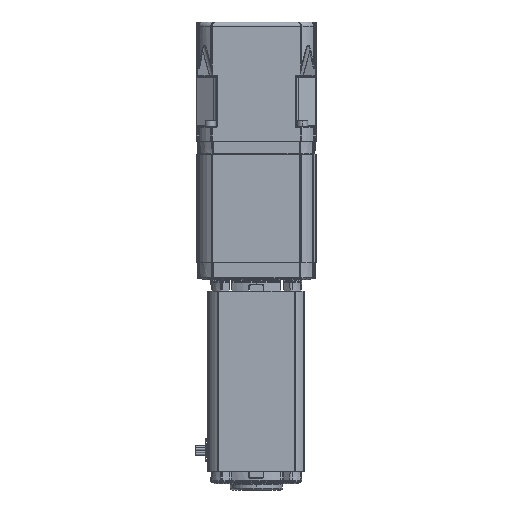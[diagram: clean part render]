
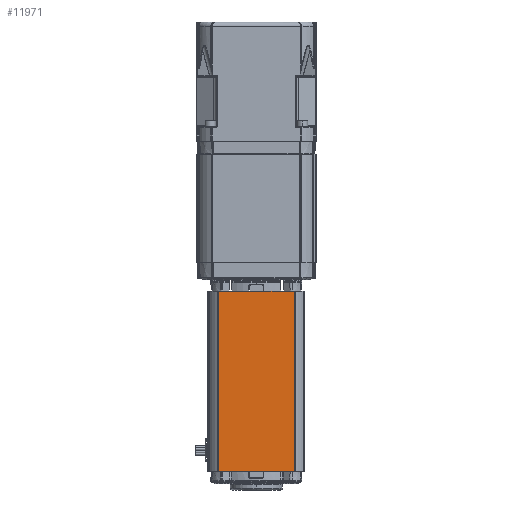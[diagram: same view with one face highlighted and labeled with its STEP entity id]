
A CAD part, left-side view. The second image highlights one B-rep face of the part: STEP entity #11971.
In plain terms, the highlighted planar face has unit normal (-1, 0, 0).
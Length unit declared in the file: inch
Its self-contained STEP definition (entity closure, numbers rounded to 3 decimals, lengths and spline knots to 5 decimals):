
#1288 = AXIS2_PLACEMENT_3D ( 'NONE', #23460, #65259, #29435 ) ;
#3121 = EDGE_LOOP ( 'NONE', ( #21877, #41643, #11894, #46197 ) ) ;
#4067 = VECTOR ( 'NONE', #73519, 39.37008 ) ;
#9115 = CARTESIAN_POINT ( 'NONE',  ( -1.442, 1.1475, -6.233 ) ) ;
#11894 = ORIENTED_EDGE ( 'NONE', *, *, #41834, .T. ) ;
#11971 = ADVANCED_FACE ( 'NONE', ( #60888 ), #58752, .T. ) ;
#14302 = LINE ( 'NONE', #57684, #28371 ) ;
#16077 = CARTESIAN_POINT ( 'NONE',  ( -1.442, 1.1275, -6.233 ) ) ;
#17042 = VERTEX_POINT ( 'NONE', #70903 ) ;
#21877 = ORIENTED_EDGE ( 'NONE', *, *, #39788, .T. ) ;
#21953 = EDGE_CURVE ( 'NONE', #39642, #17042, #14302, .T. ) ;
#22725 = LINE ( 'NONE', #9115, #36708 ) ;
#23460 = CARTESIAN_POINT ( 'NONE',  ( -1.442, 1.1475, -11.738 ) ) ;
#24918 = VERTEX_POINT ( 'NONE', #60188 ) ;
#28371 = VECTOR ( 'NONE', #51816, 39.37008 ) ;
#29375 = EDGE_CURVE ( 'NONE', #54386, #24918, #22725, .T. ) ;
#29435 = DIRECTION ( 'NONE',  ( 0., 0., 1. ) ) ;
#31658 = CARTESIAN_POINT ( 'NONE',  ( -1.442, -1.1275, -11.738 ) ) ;
#36366 = CARTESIAN_POINT ( 'NONE',  ( -1.442, 1.1275, -11.738 ) ) ;
#36708 = VECTOR ( 'NONE', #74842, 39.37008 ) ;
#39642 = VERTEX_POINT ( 'NONE', #64175 ) ;
#39788 = EDGE_CURVE ( 'NONE', #54386, #17042, #42095, .T. ) ;
#40208 = VECTOR ( 'NONE', #48099, 39.37008 ) ;
#41643 = ORIENTED_EDGE ( 'NONE', *, *, #21953, .F. ) ;
#41834 = EDGE_CURVE ( 'NONE', #39642, #24918, #49898, .T. ) ;
#42095 = LINE ( 'NONE', #36366, #40208 ) ;
#46197 = ORIENTED_EDGE ( 'NONE', *, *, #29375, .F. ) ;
#48099 = DIRECTION ( 'NONE',  ( 0., 0., -1. ) ) ;
#49898 = LINE ( 'NONE', #31658, #4067 ) ;
#51816 = DIRECTION ( 'NONE',  ( 0., 1., 0. ) ) ;
#54386 = VERTEX_POINT ( 'NONE', #16077 ) ;
#57684 = CARTESIAN_POINT ( 'NONE',  ( -1.442, -1.1275, -11.603 ) ) ;
#58752 = PLANE ( 'NONE',  #1288 ) ;
#60188 = CARTESIAN_POINT ( 'NONE',  ( -1.442, -1.1275, -6.233 ) ) ;
#60888 = FACE_OUTER_BOUND ( 'NONE', #3121, .T. ) ;
#64175 = CARTESIAN_POINT ( 'NONE',  ( -1.442, -1.1275, -11.603 ) ) ;
#65259 = DIRECTION ( 'NONE',  ( -1., 0., 0. ) ) ;
#70903 = CARTESIAN_POINT ( 'NONE',  ( -1.442, 1.1275, -11.603 ) ) ;
#73519 = DIRECTION ( 'NONE',  ( 0., 0., 1. ) ) ;
#74842 = DIRECTION ( 'NONE',  ( 0., -1., 0. ) ) ;
